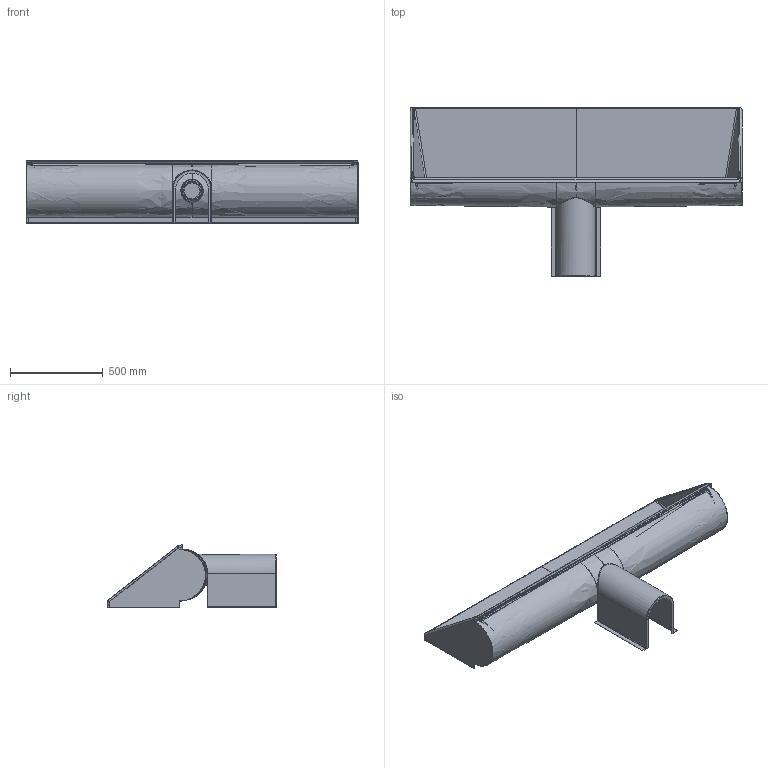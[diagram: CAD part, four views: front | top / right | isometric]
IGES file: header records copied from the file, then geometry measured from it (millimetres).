
Global section: file name: No Iges File Name specified; native system: Autodesk Inventor 2009; preprocessor: AutoDesk Inventor Iges Exporter R2009; author: Finn Lundsgaard; date: 20100203.172756; units: millimetre
Bounding box: 1790 x 910.26 x 339.44 mm (x, y, z)
Volume: 3234533.8 mm3; surface area: 6230097.6 mm2
Topology: 4 solids, 4 shells, 366 faces, 949 edges, 576 vertices
Faces by surface type: bspline 228, plane 46, revolution 39, torus 21, cone 18, cylinder 14
